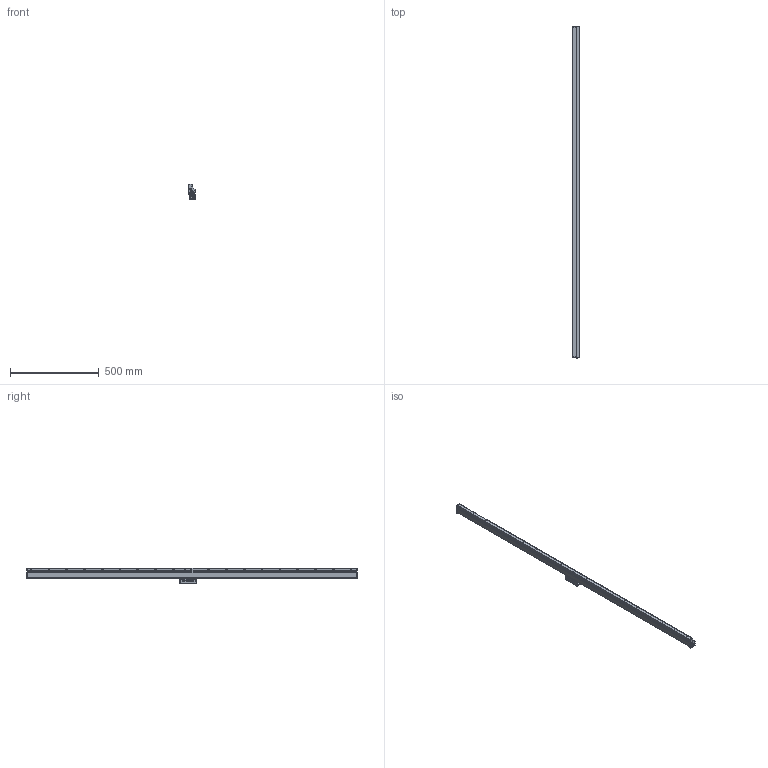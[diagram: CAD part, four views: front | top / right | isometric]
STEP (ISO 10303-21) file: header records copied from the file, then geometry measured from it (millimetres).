
FILE_DESCRIPTION(('Creo Elements/Direct Modeling STEP Export'),'2;1');
FILE_NAME('AT1153-1740.stp','2018-10-12T11:53:09',(''),(''),'Creo Elements/Direct Modeling STEP processor for AP214 (Solid Model)','Creo Elements/Direct Modeling 18.1B 29-Sep-2012 (C) Parametric Technology GmbH','');
FILE_SCHEMA(('AUTOMOTIVE_DESIGN { 1 0 10303 214 1 1 1 1 }'));
Products named in the file (3): Scale_1740; DetectorHead; AT1153-1740
Assembly tree (2 placements, depth 2):
  AT1153-1740
    DetectorHead
    Scale_1740
Bounding box: 37 x 1868.31 x 85 mm (x, y, z)
Volume: 75076.9 mm3; surface area: 419382.1 mm2
Topology: 1 solids, 2 shells, 3200 faces, 8605 edges, 5586 vertices
Faces by surface type: plane 1887, cylinder 1083, cone 128, torus 69, bspline 13, sphere 12, extrusion 8
Entity records: 102584 total; most frequent: CARTESIAN_POINT 19191, ORIENTED_EDGE 17318, DIRECTION 16194, EDGE_CURVE 8591, VERTEX_POINT 5586, VECTOR 5510, LINE 5502, AXIS2_PLACEMENT_3D 5342
